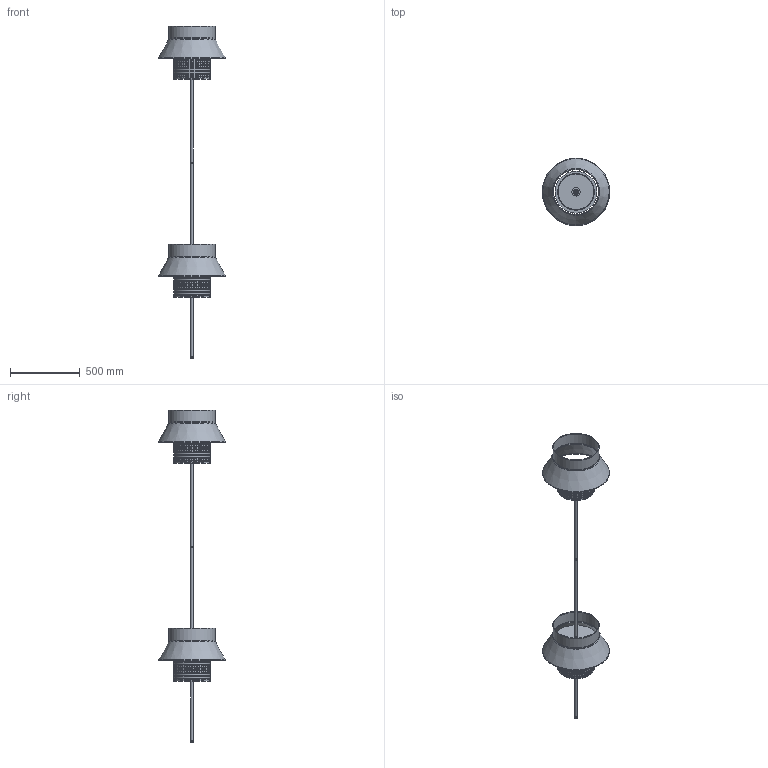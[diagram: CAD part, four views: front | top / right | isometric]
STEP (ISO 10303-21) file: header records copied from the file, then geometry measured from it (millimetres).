
FILE_DESCRIPTION( ( 'STEP AP203' ), '1' );
FILE_NAME( '//srvbf/BF Disegni/MARINELLI FABIO/SATURN/SATURN-P2 Piantana 3D.stp', '2020-10-15T13:21:41', ( ' ' ), ( ' ' ), 'XStep 1.0', ' ', ' ' );
FILE_SCHEMA( ( 'CONFIG_CONTROL_DESIGN) ( )' ) );
Length unit declared in the file: metre
Products named in the file (16): Assem1; 1; 2; 3; 4; 5; 6; 7; 8; 9; 10; 11; 12; 13; 14; 15
Bounding box: 481.2 x 481.2 x 2375 mm (x, y, z)
Volume: 2009676.5 mm3; surface area: 2493081.4 mm2
Topology: 30 solids, 30 shells, 840 faces, 2430 edges, 1604 vertices
Faces by surface type: cylinder 768, plane 46, cone 16, torus 10
Full cylindrical faces by diameter (mm): 8.917 x6, 10 x720, 16.8 x4, 17 x2, 20 x2, 40 x2, 60 x2, 258 x6, 260 x2, 260.2 x4, 261.2 x4, 300 x2, 328 x2, 330 x2, 330.2 x4, 331.2 x4
Entity records: 64746 total; most frequent: CARTESIAN_POINT 54692, EDGE_LOOP 1556, ORIENTED_EDGE 1556, DIRECTION 984, FACE_OUTER_BOUND 803, EDGE_CURVE 778, VERTEX_POINT 778, FACE_BOUND 753
